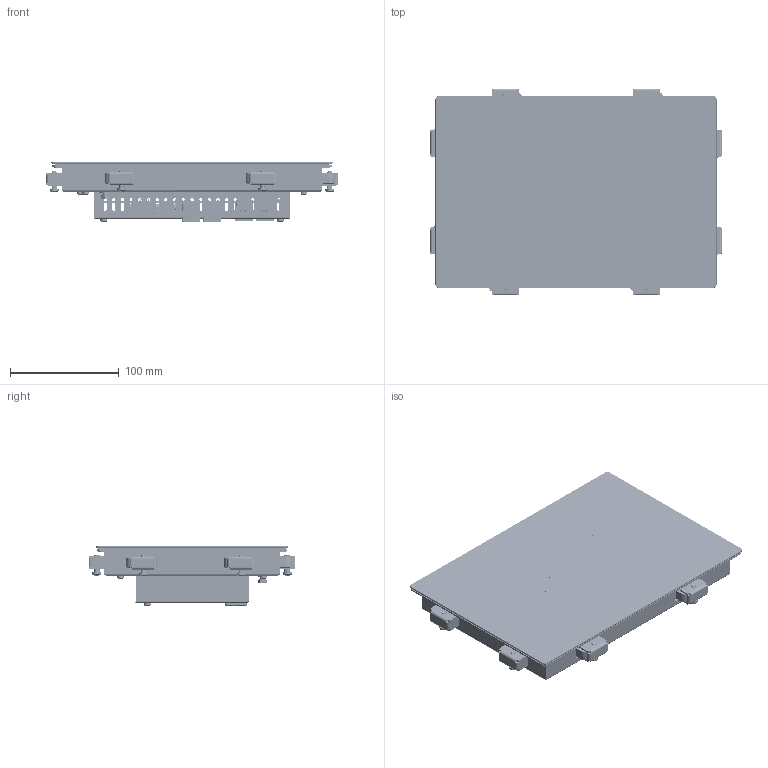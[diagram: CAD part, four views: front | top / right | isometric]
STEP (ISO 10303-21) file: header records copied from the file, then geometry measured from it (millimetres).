
FILE_DESCRIPTION (( 'STEP AP214' ), '1' );
FILE_NAME ('DC2110_BAT_Fronttafelmontage_reduziert_Stand14052018.STEP', '2018-05-14T18:32:11', ( '' ), ( '' ), 'SwSTEP 2.0', 'SolidWorks 2018', '' );
FILE_SCHEMA (( 'AUTOMOTIVE_DESIGN' ));
Length unit declared in the file: millimetre
Products named in the file (1): DC2110_BAT_Fronttafelmontage_reduziert_Stand14052018
Bounding box: 268.8 x 190.4 x 56.03 mm (x, y, z)
Volume: 276977.8 mm3; surface area: 424194.7 mm2
Topology: 106 solids, 125 shells, 9528 faces, 25016 edges, 15949 vertices
Faces by surface type: plane 6765, cylinder 1862, torus 449, bspline 225, cone 211, sphere 16
Full cylindrical faces by diameter (mm): 0.4 x5, 0.45 x54, 0.6 x2, 0.65 x2, 0.8 x6, 0.9 x40, 1 x20, 1.1 x4, 1.3 x17, 1.4 x2, 1.5 x4, 1.567 x4, 1.6 x8, 1.8 x2, 2 x1, 2.2 x4, 2.3 x5, 2.5 x12, 2.7 x8, 3 x35, 3.1 x2, 3.125 x4, 3.2 x8, 3.3 x15, 3.5 x9, 3.8 x8, 4 x11, 4.2 x8, 4.22 x4, 4.25 x4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
Entity records: 406783 total; most frequent: CARTESIAN_POINT 69971, ORIENTED_EDGE 48854, DIRECTION 45189, EDGE_CURVE 24427, VECTOR 17447, LINE 17447, VERTEX_POINT 15839, AXIS2_PLACEMENT_3D 13871
